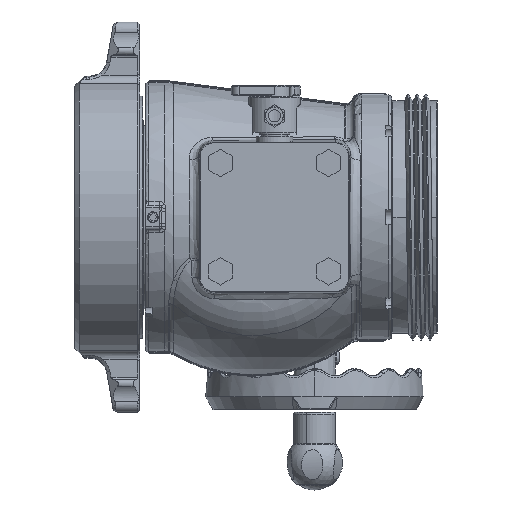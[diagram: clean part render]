
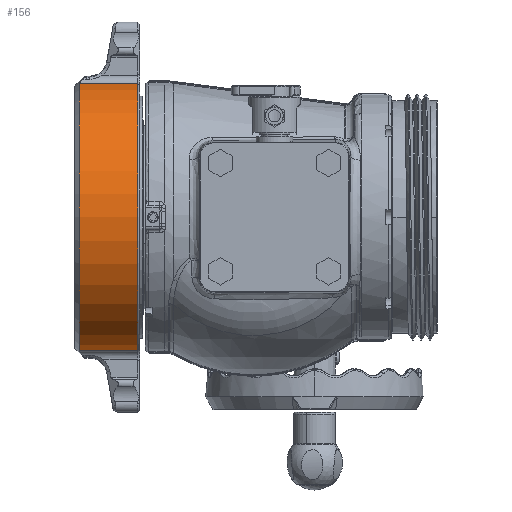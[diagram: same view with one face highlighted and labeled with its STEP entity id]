
A CAD part, front view. The second image highlights one B-rep face of the part: STEP entity #156.
In plain terms, the highlighted cylindrical face has radius 98.425 mm (diameter 196.85 mm), a partial arc.
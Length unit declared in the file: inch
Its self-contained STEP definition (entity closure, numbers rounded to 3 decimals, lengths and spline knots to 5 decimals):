
#156 = ADVANCED_FACE ( 'NONE', ( #51953 ), #83390, .T. ) ;
#2018 = AXIS2_PLACEMENT_3D ( 'NONE', #75129, #75628, #98339 ) ;
#3983 = DIRECTION ( 'NONE',  ( 1., 0., 0. ) ) ;
#5130 = CIRCLE ( 'NONE', #2018, 3.875 ) ;
#5144 = AXIS2_PLACEMENT_3D ( 'NONE', #90624, #3983, #40714 ) ;
#7303 = CARTESIAN_POINT ( 'NONE',  ( -5.158, -0.68106, -3.81468 ) ) ;
#13216 = CARTESIAN_POINT ( 'NONE',  ( -4.983, 0., 0. ) ) ;
#15507 = LINE ( 'NONE', #7303, #59257 ) ;
#16140 = VERTEX_POINT ( 'NONE', #94356 ) ;
#19890 = VECTOR ( 'NONE', #55033, 39.37008 ) ;
#20670 = EDGE_LOOP ( 'NONE', ( #25734, #50970, #99652, #57519 ) ) ;
#25734 = ORIENTED_EDGE ( 'NONE', *, *, #82163, .T. ) ;
#36445 = DIRECTION ( 'NONE',  ( 0., 0., -1. ) ) ;
#40714 = DIRECTION ( 'NONE',  ( 0., 0., -1. ) ) ;
#40715 = AXIS2_PLACEMENT_3D ( 'NONE', #13216, #92120, #36445 ) ;
#46723 = VERTEX_POINT ( 'NONE', #98718 ) ;
#50970 = ORIENTED_EDGE ( 'NONE', *, *, #85428, .T. ) ;
#51953 = FACE_OUTER_BOUND ( 'NONE', #20670, .T. ) ;
#55033 = DIRECTION ( 'NONE',  ( 1., 0., 0. ) ) ;
#57519 = ORIENTED_EDGE ( 'NONE', *, *, #78937, .F. ) ;
#59257 = VECTOR ( 'NONE', #86705, 39.37008 ) ;
#61815 = VERTEX_POINT ( 'NONE', #100807 ) ;
#67916 = VERTEX_POINT ( 'NONE', #74313 ) ;
#74313 = CARTESIAN_POINT ( 'NONE',  ( -4.983, -0.68106, 3.81468 ) ) ;
#75129 = CARTESIAN_POINT ( 'NONE',  ( -3.3075, 0., 0. ) ) ;
#75628 = DIRECTION ( 'NONE',  ( -1., 0., 0. ) ) ;
#77732 = LINE ( 'NONE', #78735, #19890 ) ;
#78735 = CARTESIAN_POINT ( 'NONE',  ( -5.158, -0.68106, 3.81468 ) ) ;
#78937 = EDGE_CURVE ( 'NONE', #16140, #67916, #83601, .T. ) ;
#82163 = EDGE_CURVE ( 'NONE', #16140, #61815, #15507, .T. ) ;
#83390 = CYLINDRICAL_SURFACE ( 'NONE', #5144, 3.875 ) ;
#83601 = CIRCLE ( 'NONE', #40715, 3.875 ) ;
#85153 = EDGE_CURVE ( 'NONE', #67916, #46723, #77732, .T. ) ;
#85428 = EDGE_CURVE ( 'NONE', #61815, #46723, #5130, .T. ) ;
#86705 = DIRECTION ( 'NONE',  ( 1., 0., 0. ) ) ;
#90624 = CARTESIAN_POINT ( 'NONE',  ( -5.158, 0., 0. ) ) ;
#92120 = DIRECTION ( 'NONE',  ( -1., 0., 0. ) ) ;
#94356 = CARTESIAN_POINT ( 'NONE',  ( -4.983, -0.68106, -3.81468 ) ) ;
#98339 = DIRECTION ( 'NONE',  ( 0., 0., 1. ) ) ;
#98718 = CARTESIAN_POINT ( 'NONE',  ( -3.3075, -0.68106, 3.81468 ) ) ;
#99652 = ORIENTED_EDGE ( 'NONE', *, *, #85153, .F. ) ;
#100807 = CARTESIAN_POINT ( 'NONE',  ( -3.3075, -0.68106, -3.81468 ) ) ;
